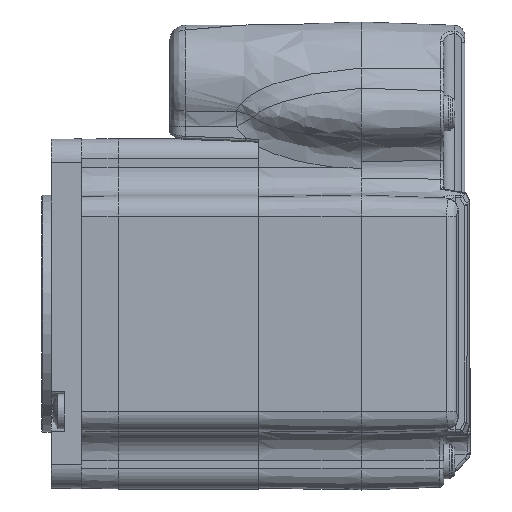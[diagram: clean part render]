
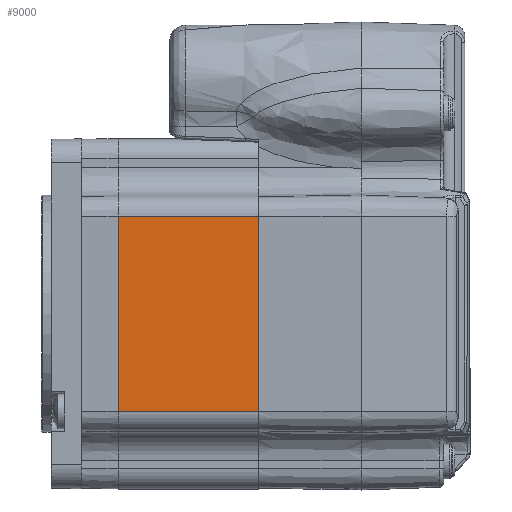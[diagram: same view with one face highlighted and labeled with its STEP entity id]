
A CAD part, left-side view. The second image highlights one B-rep face of the part: STEP entity #9000.
In plain terms, the highlighted planar face has unit normal (-1, 0, 0).
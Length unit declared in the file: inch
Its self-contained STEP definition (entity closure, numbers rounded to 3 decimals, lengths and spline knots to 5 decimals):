
#9000=ADVANCED_FACE('Unnamed[1]',(#18494),#18495,.T.);
#9780=EDGE_CURVE('Unnamed[1]',#9956,#11129,#19355,.T.);
#9878=EDGE_CURVE('Unnamed[1]',#12184,#11129,#19465,.F.);
#9956=VERTEX_POINT('',#19552);
#10039=VERTEX_POINT('',#19655);
#10364=EDGE_CURVE('Unnamed[1]',#12184,#10039,#20015,.T.);
#11129=VERTEX_POINT('',#20844);
#12184=VERTEX_POINT('',#22017);
#12810=EDGE_CURVE('Unnamed[1]',#10039,#9956,#22707,.T.);
#18494=FACE_OUTER_BOUND('',#40919,.T.);
#18495=PLANE('',#40920);
#19355=LINE('',#43514,#43515);
#19465=LINE('',#43957,#43958);
#19552=CARTESIAN_POINT('',(-1.96149,1.57521,-0.67063));
#19655=CARTESIAN_POINT('',(-1.96149,1.57521,0.56486));
#20015=LINE('',#46138,#46139);
#20844=CARTESIAN_POINT('',(-1.96149,2.46297,-0.67063));
#22017=CARTESIAN_POINT('',(-1.96149,2.46297,0.56486));
#22707=LINE('',#55314,#55315);
#40919=EDGE_LOOP('',(#60285,#60286,#60287,#60288));
#40920=AXIS2_PLACEMENT_3D('',#60289,#60290,#60291);
#43514=CARTESIAN_POINT('',(-1.96149,1.57521,-0.67063));
#43515=VECTOR('',#60924,1.0);
#43957=CARTESIAN_POINT('',(-1.96149,2.46297,0.28689));
#43958=VECTOR('',#61006,1.0);
#46138=CARTESIAN_POINT('',(-1.96149,1.57521,0.56486));
#46139=VECTOR('',#61494,1.0);
#55314=CARTESIAN_POINT('',(-1.96149,1.57521,-0.73244));
#55315=VECTOR('',#63639,1.33373);
#60285=ORIENTED_EDGE('',*,*,#9780,.F.);
#60286=ORIENTED_EDGE('',*,*,#12810,.F.);
#60287=ORIENTED_EDGE('',*,*,#10364,.F.);
#60288=ORIENTED_EDGE('',*,*,#9878,.T.);
#60289=CARTESIAN_POINT('',(-1.96149,1.57521,0.62667));
#60290=DIRECTION('',(-1.0,0.0,0.0));
#60291=DIRECTION('',(0.0,0.0,1.0));
#60924=DIRECTION('',(0.0,1.0,0.0));
#61006=DIRECTION('',(0.0,0.0,1.0));
#61494=DIRECTION('',(0.0,-1.0,0.0));
#63639=DIRECTION('',(0.0,0.0,-1.0));
